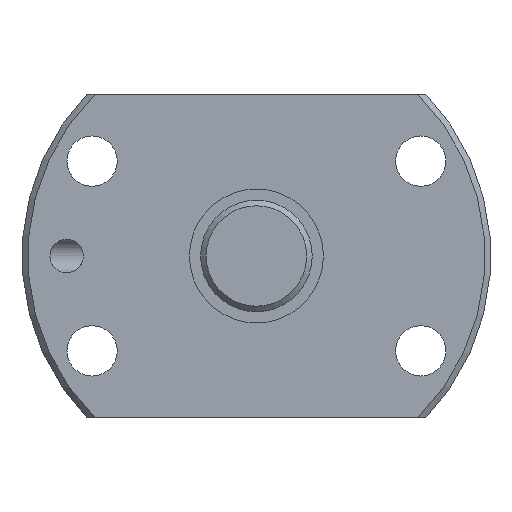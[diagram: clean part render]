
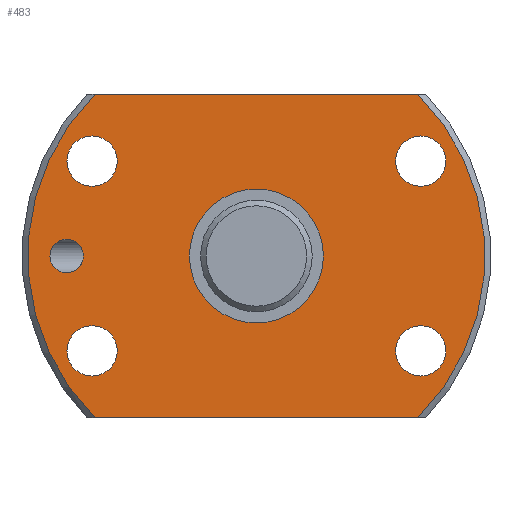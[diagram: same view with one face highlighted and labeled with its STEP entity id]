
A CAD part, left-side view. The second image highlights one B-rep face of the part: STEP entity #483.
In plain terms, the highlighted planar face has unit normal (-1, 0, 0).
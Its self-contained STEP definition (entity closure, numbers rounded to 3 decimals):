
#35=LINE('',#860,#43);
#36=LINE('',#864,#44);
#43=VECTOR('',#673,1000.);
#44=VECTOR('',#676,1000.);
#68=PLANE('',#560);
#111=ORIENTED_EDGE('',*,*,#214,.T.);
#112=ORIENTED_EDGE('',*,*,#215,.T.);
#113=ORIENTED_EDGE('',*,*,#216,.F.);
#114=ORIENTED_EDGE('',*,*,#217,.F.);
#115=ORIENTED_EDGE('',*,*,#218,.F.);
#116=ORIENTED_EDGE('',*,*,#200,.F.);
#117=ORIENTED_EDGE('',*,*,#219,.T.);
#118=ORIENTED_EDGE('',*,*,#220,.T.);
#119=ORIENTED_EDGE('',*,*,#221,.T.);
#120=ORIENTED_EDGE('',*,*,#222,.T.);
#200=EDGE_CURVE('',#253,#254,#296,.T.);
#214=EDGE_CURVE('',#266,#266,#302,.T.);
#215=EDGE_CURVE('',#267,#267,#303,.T.);
#216=EDGE_CURVE('',#268,#253,#35,.T.);
#217=EDGE_CURVE('',#269,#268,#304,.T.);
#218=EDGE_CURVE('',#254,#269,#36,.T.);
#219=EDGE_CURVE('',#270,#270,#305,.T.);
#220=EDGE_CURVE('',#271,#271,#306,.T.);
#221=EDGE_CURVE('',#272,#272,#307,.T.);
#222=EDGE_CURVE('',#273,#273,#308,.T.);
#253=VERTEX_POINT('',#802);
#254=VERTEX_POINT('',#804);
#266=VERTEX_POINT('',#857);
#267=VERTEX_POINT('',#859);
#268=VERTEX_POINT('',#861);
#269=VERTEX_POINT('',#863);
#270=VERTEX_POINT('',#866);
#271=VERTEX_POINT('',#868);
#272=VERTEX_POINT('',#870);
#273=VERTEX_POINT('',#872);
#296=CIRCLE('',#548,20.475);
#302=CIRCLE('',#561,6.);
#303=CIRCLE('',#562,1.5);
#304=CIRCLE('',#563,20.475);
#305=CIRCLE('',#564,2.25);
#306=CIRCLE('',#565,2.25);
#307=CIRCLE('',#566,2.25);
#308=CIRCLE('',#567,2.25);
#341=EDGE_LOOP('',(#111));
#342=EDGE_LOOP('',(#112));
#343=EDGE_LOOP('',(#113,#114,#115,#116));
#344=EDGE_LOOP('',(#117));
#345=EDGE_LOOP('',(#118));
#346=EDGE_LOOP('',(#119));
#347=EDGE_LOOP('',(#120));
#408=FACE_BOUND('',#341,.T.);
#409=FACE_BOUND('',#342,.T.);
#410=FACE_BOUND('',#343,.T.);
#411=FACE_BOUND('',#344,.T.);
#412=FACE_BOUND('',#345,.T.);
#413=FACE_BOUND('',#346,.T.);
#414=FACE_BOUND('',#347,.T.);
#483=ADVANCED_FACE('',(#408,#409,#410,#411,#412,#413,#414),#68,.T.);
#548=AXIS2_PLACEMENT_3D('',#803,#641,#642);
#560=AXIS2_PLACEMENT_3D('',#855,#667,#668);
#561=AXIS2_PLACEMENT_3D('',#856,#669,#670);
#562=AXIS2_PLACEMENT_3D('',#858,#671,#672);
#563=AXIS2_PLACEMENT_3D('',#862,#674,#675);
#564=AXIS2_PLACEMENT_3D('',#865,#677,#678);
#565=AXIS2_PLACEMENT_3D('',#867,#679,#680);
#566=AXIS2_PLACEMENT_3D('',#869,#681,#682);
#567=AXIS2_PLACEMENT_3D('',#871,#683,#684);
#641=DIRECTION('',(1.,0.,0.));
#642=DIRECTION('',(0.,0.,-1.));
#667=DIRECTION('',(-1.,0.,0.));
#668=DIRECTION('',(0.,0.,1.));
#669=DIRECTION('',(1.,0.,0.));
#670=DIRECTION('',(0.,0.,-1.));
#671=DIRECTION('',(1.,0.,0.));
#672=DIRECTION('',(0.,0.,-1.));
#673=DIRECTION('',(0.,-1.,0.));
#674=DIRECTION('',(1.,0.,0.));
#675=DIRECTION('',(0.,0.,-1.));
#676=DIRECTION('',(0.,1.,0.));
#677=DIRECTION('',(1.,0.,0.));
#678=DIRECTION('',(0.,0.,-1.));
#679=DIRECTION('',(1.,0.,0.));
#680=DIRECTION('',(0.,0.,-1.));
#681=DIRECTION('',(1.,0.,0.));
#682=DIRECTION('',(0.,0.,-1.));
#683=DIRECTION('',(1.,0.,0.));
#684=DIRECTION('',(0.,0.,-1.));
#802=CARTESIAN_POINT('',(0.,-14.456,14.5));
#803=CARTESIAN_POINT('',(0.,0.,0.));
#804=CARTESIAN_POINT('',(0.,-14.456,-14.5));
#855=CARTESIAN_POINT('',(0.,20.475,0.));
#856=CARTESIAN_POINT('',(0.,0.,0.));
#857=CARTESIAN_POINT('',(0.,0.,-6.));
#858=CARTESIAN_POINT('',(0.,17.,0.));
#859=CARTESIAN_POINT('',(0.,17.,-1.5));
#860=CARTESIAN_POINT('',(0.,21.1,14.5));
#861=CARTESIAN_POINT('',(0.,14.456,14.5));
#862=CARTESIAN_POINT('',(0.,0.,0.));
#863=CARTESIAN_POINT('',(0.,14.456,-14.5));
#864=CARTESIAN_POINT('',(0.,-21.1,-14.5));
#865=CARTESIAN_POINT('',(0.,-14.722,8.5));
#866=CARTESIAN_POINT('',(0.,-14.722,6.25));
#867=CARTESIAN_POINT('',(0.,-14.722,-8.5));
#868=CARTESIAN_POINT('',(0.,-14.722,-10.75));
#869=CARTESIAN_POINT('',(0.,14.722,-8.5));
#870=CARTESIAN_POINT('',(0.,14.722,-10.75));
#871=CARTESIAN_POINT('',(0.,14.722,8.5));
#872=CARTESIAN_POINT('',(0.,14.722,6.25));
